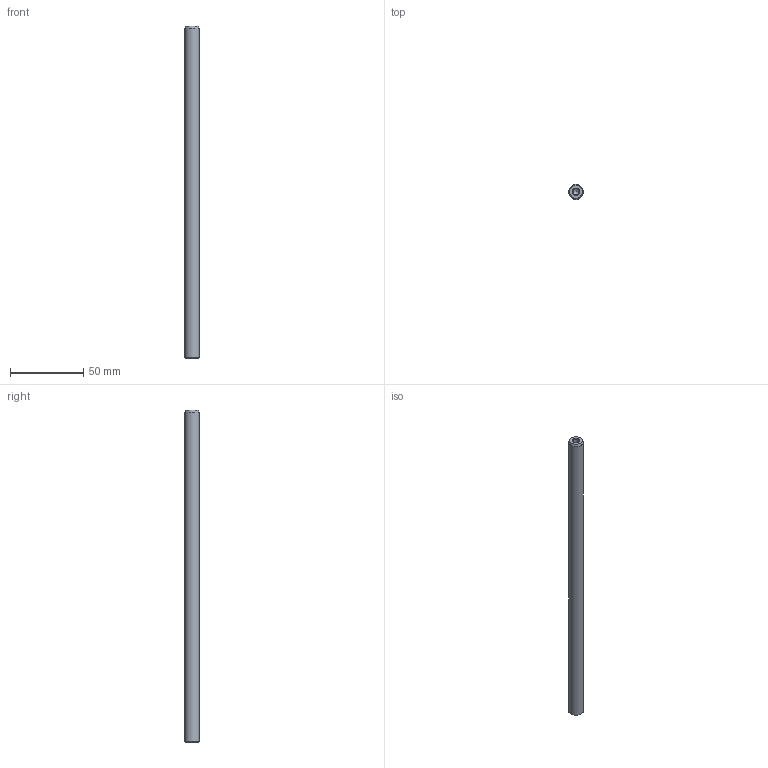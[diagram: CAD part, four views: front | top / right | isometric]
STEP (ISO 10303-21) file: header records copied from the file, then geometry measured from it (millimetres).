
FILE_DESCRIPTION( ( 'STEP AP214' ), '1' );
FILE_NAME( 'U:/Etudes/Top Solid/BIBLIO 3D AVM/STEP/PNEUMATIQUE/GUIDAGES/Accessoires/Colonnes/Ø10x227.step', '2004-12-22T12:26:00', ( ' ' ), ( ' ' ), 'XStep 1.0', ' ', ' ' );
FILE_SCHEMA( ( 'automotive_design' ) );
Length unit declared in the file: metre
Products named in the file (1): 1
Bounding box: 10 x 10 x 227 mm (x, y, z)
Volume: 17441.8 mm3; surface area: 7606.7 mm2
Topology: 1 solids, 1 shells, 13 faces, 27 edges, 16 vertices
Faces by surface type: cone 6, cylinder 5, plane 2
Full cylindrical faces by diameter (mm): 4.134 x4, 10 x1
Entity records: 382 total; most frequent: DIRECTION 52, CARTESIAN_POINT 40, AXIS2_PLACEMENT_3D 26, EDGE_LOOP 24, ORIENTED_EDGE 24, FACE_OUTER_BOUND 18, VERTEX_POINT 14, STYLED_ITEM 13
